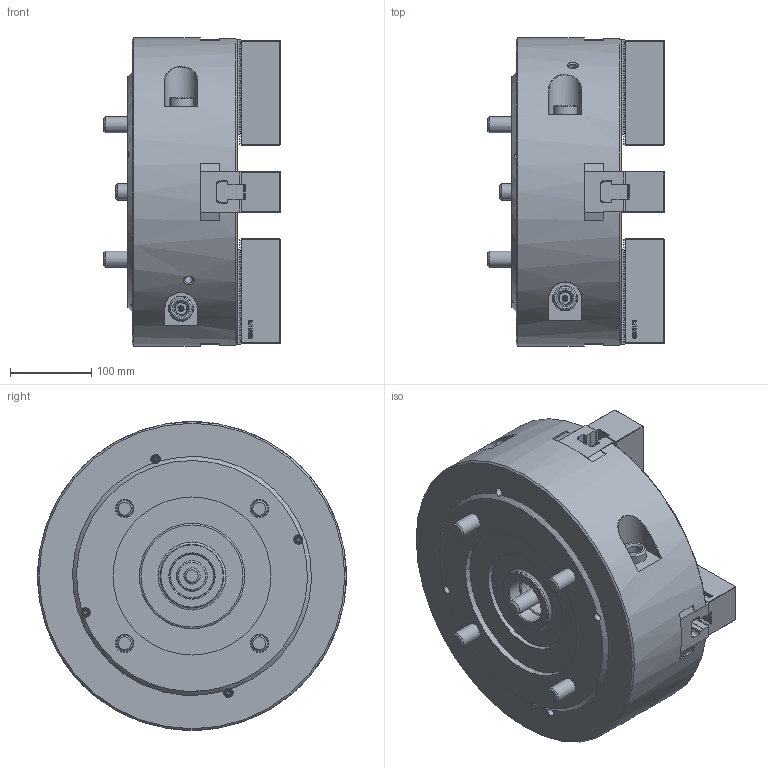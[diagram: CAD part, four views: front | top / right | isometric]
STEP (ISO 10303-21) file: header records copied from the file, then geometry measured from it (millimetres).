
FILE_DESCRIPTION (( 'STEP AP214' ), '1' );
FILE_NAME ('DT1_HW-15_OUTSIDE_VIEW_HOL.STEP', '2024-05-10T00:51:52', ( '' ), ( '' ), 'SwSTEP 2.0', 'SolidWorks 2022', '' );
FILE_SCHEMA (( 'AUTOMOTIVE_DESIGN' ));
Length unit declared in the file: millimetre
Products named in the file (10): DT1_HW-15_SOFTJAW^DT1_HW-15_ﾃﾞﾌｫﾙﾄ; DT1_HW-15_M20x140^DT1_HW-15_ﾃﾞﾌｫﾙﾄ; DT1_HW-15_BASE^DT1_HW-15_ﾃﾞﾌｫﾙﾄ; DT1_HW-15_DN^DT1_HW-15_ﾃﾞﾌｫﾙﾄ; DT1_HW-15_DRAWSCREW^DT1_HW-15_ﾃﾞﾌｫﾙﾄ; DT1_HW-15_TNUT^DT1_HW-15_ﾃﾞﾌｫﾙﾄ; DT1_HW-15_M14x40^DT1_HW-15_ﾃﾞﾌｫﾙﾄ; DT1_HW-15_M5x10^DT1_HW-15_ﾃﾞﾌｫﾙﾄ; DT1_HW-15_OUTSIDE_VIEW_HOL; DT1_HW-15_COVER^DT1_HW-15_ﾃﾞﾌｫﾙﾄ
Assembly tree (28 placements, depth 2):
  DT1_HW-15_OUTSIDE_VIEW_HOL
    DT1_HW-15_SOFTJAW^DT1_HW-15_ﾃﾞﾌｫﾙﾄ  x4
    DT1_HW-15_TNUT^DT1_HW-15_ﾃﾞﾌｫﾙﾄ  x4
    DT1_HW-15_COVER^DT1_HW-15_ﾃﾞﾌｫﾙﾄ
    DT1_HW-15_DRAWSCREW^DT1_HW-15_ﾃﾞﾌｫﾙﾄ
    DT1_HW-15_DN^DT1_HW-15_ﾃﾞﾌｫﾙﾄ
    DT1_HW-15_BASE^DT1_HW-15_ﾃﾞﾌｫﾙﾄ
    DT1_HW-15_M20x140^DT1_HW-15_ﾃﾞﾌｫﾙﾄ  x4
    DT1_HW-15_M14x40^DT1_HW-15_ﾃﾞﾌｫﾙﾄ  x8
    DT1_HW-15_M5x10^DT1_HW-15_ﾃﾞﾌｫﾙﾄ  x4
Bounding box: 218 x 381 x 381 mm (x, y, z)
Volume: 15653587.1 mm3; surface area: 899294 mm2
Topology: 28 solids, 36 shells, 5370 faces, 15246 edges, 10094 vertices
Faces by surface type: plane 3792, cylinder 898, bspline 379, cone 266, torus 31, sphere 4
Full cylindrical faces by diameter (mm): 2 x4, 4.2 x4, 5 x4, 5.5 x4, 6.8 x5, 8.72 x4, 9.5 x4, 10.2 x6, 12 x8, 13.27 x4, 14 x12, 15 x8, 17 x5, 17.5 x1, 20 x6, 21 x4, 21.33 x8, 22 x8, 27 x1, 29.6 x4, 30.33 x4, 31 x5, 32 x4, 38 x1, 52.835 x1, 55 x1, 56 x2, 78 x1, 130 x1, 195 x1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
Entity records: 124814 total; most frequent: CARTESIAN_POINT 34446, ORIENTED_EDGE 19878, DIRECTION 16529, EDGE_CURVE 9939, LINE 7765, VECTOR 7765, VERTEX_POINT 6690, AXIS2_PLACEMENT_3D 4382
